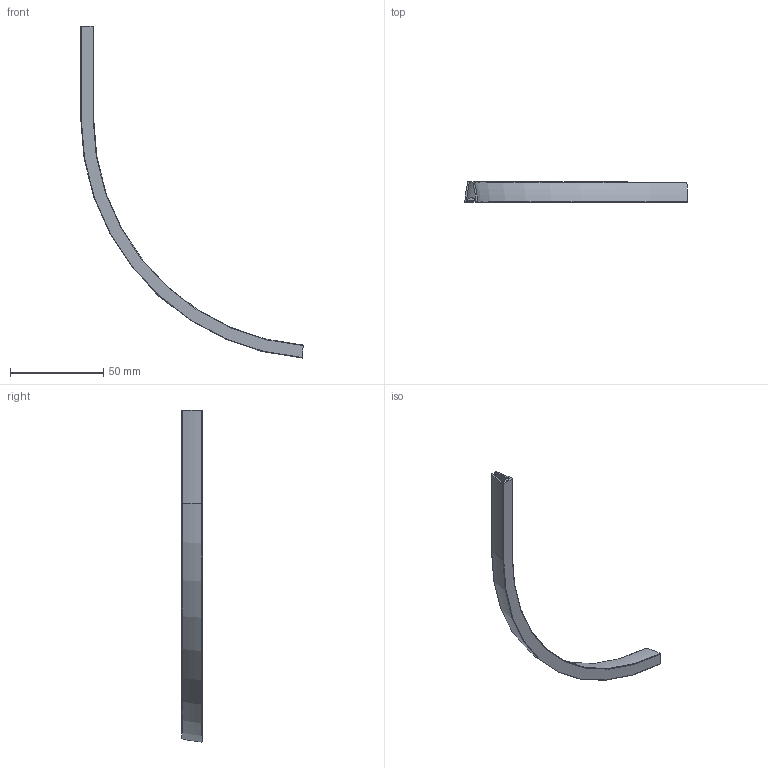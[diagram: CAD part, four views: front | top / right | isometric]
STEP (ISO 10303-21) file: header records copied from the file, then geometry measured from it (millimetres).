
FILE_DESCRIPTION (( 'STEP AP203' ), '1' );
FILE_NAME ('Protector bordes con silicona 1,5-4mm.STEP', '2024-11-06T14:40:27', ( '' ), ( '' ), 'SwSTEP 2.0', 'SolidWorks 2022', '' );
FILE_SCHEMA (( 'CONFIG_CONTROL_DESIGN' ));
Length unit declared in the file: millimetre
Products named in the file (1): Protector bordes con silicona 1,5-4mm
Bounding box: 119.31 x 11 x 178.09 mm (x, y, z)
Volume: 6637.9 mm3; surface area: 15174.9 mm2
Topology: 2 solids, 2 shells, 36 faces, 83 edges, 51 vertices
Faces by surface type: torus 14, cylinder 14, plane 8
Entity records: 1117 total; most frequent: DIRECTION 216, CARTESIAN_POINT 171, ORIENTED_EDGE 166, AXIS2_PLACEMENT_3D 96, EDGE_CURVE 83, CIRCLE 59, VERTEX_POINT 51, EDGE_LOOP 36
